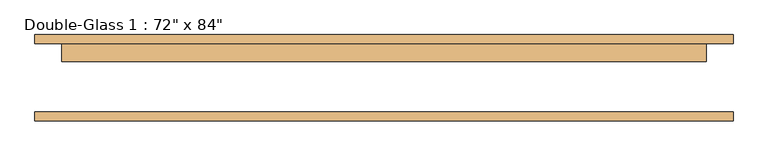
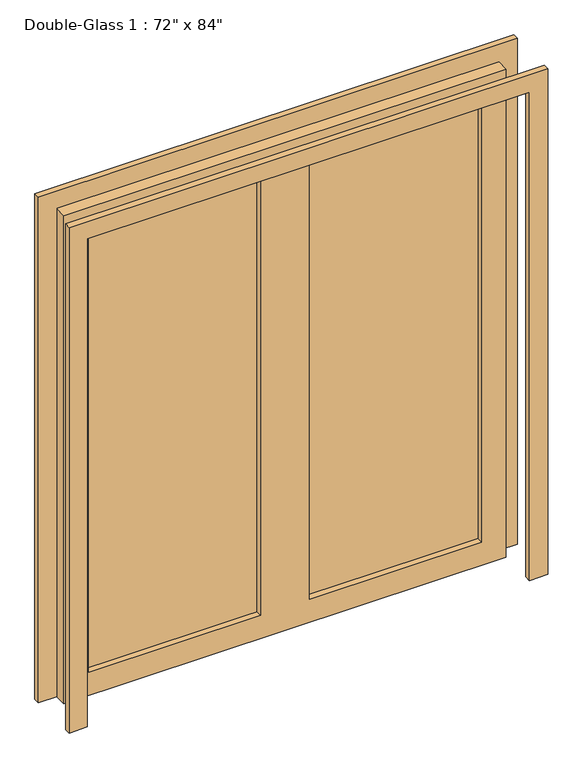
"""IFC4 building model written with IfcOpenShell, lengths in millimetres: door geometry."""

from ifc_helpers import new_model, si_unit, frame, origin, place, context, project, spatial, polyline, outline, extrude, source, transform, mapped, element, save


def door_ae1b4af6(model_context):
    return source(origin(), model_context, "Body", "SweptSolid", [
        extrude(outline(polyline([(0.0, 990.6), (2209.8, 990.6), (2209.8, -990.6), (0.0, -990.6), (0.0, -914.4), (2133.6, -914.4), (2133.6, 914.4), (0.0, 914.4), (0.0, 990.6)])), frame((0.0, -119.85625, 0.0), z_axis=(0.0, 1.0, 0.0), x_axis=(0.0, 0.0, 1.0)), (0.0, 0.0, 1.0), 25.4),
        extrude(outline(polyline([(2133.6, 914.4), (0.0, 914.4), (0.0, 990.6), (2209.8, 990.6), (2209.8, -990.6), (0.0, -990.6), (0.0, -914.4), (2133.6, -914.4), (2133.6, 914.4)])), frame((0.0, 99.21875, 0.0), z_axis=(0.0, 1.0, 0.0), x_axis=(0.0, 0.0, 1.0)), (0.0, 0.0, 1.0), 25.4),
        extrude(outline(polyline([(812.8, 73.81875), (101.6, 73.81875), (101.6, 80.9625), (812.8, 80.9625), (812.8, 73.81875)])), frame((0.0, 0.0, 101.6), z_axis=(0.0, 0.0, 1.0), x_axis=(1.0, 0.0, 0.0)), (0.0, 0.0, 1.0), 1930.4),
        extrude(outline(polyline([(-101.6, 73.81875), (-812.8, 73.81875), (-812.8, 80.9625), (-101.6, 80.9625), (-101.6, 73.81875)])), frame((0.0, 0.0, 101.6), z_axis=(0.0, 0.0, 1.0), x_axis=(1.0, 0.0, 0.0)), (0.0, 0.0, 1.0), 1930.4),
        extrude(outline(polyline([(2133.6, 914.4), (2133.6, -914.4), (0.0, -914.4), (0.0, 914.4), (2133.6, 914.4)]), holes=[polyline([(2032.0, -101.6), (101.6, -101.6), (101.6, -812.8), (2032.0, -812.8), (2032.0, -101.6)]), polyline([(2032.0, 812.8), (101.6, 812.8), (101.6, 101.6), (2032.0, 101.6), (2032.0, 812.8)])]), frame((0.0, 48.41875, 0.0), z_axis=(0.0, 1.0, 0.0), x_axis=(0.0, 0.0, 1.0)), (0.0, 0.0, 1.0), 50.8),
    ])


if __name__ == "__main__":
    model = new_model("IFC4")
    model_context = context("Model", 3, world=origin())
    ifc_project = project(units=[si_unit("LENGTHUNIT", "METRE", prefix="MILLI")], contexts=[model_context])
    site = spatial("IfcSite", under=ifc_project)
    building = spatial("IfcBuilding", under=site)
    placement = place(None, origin())
    door_shape = door_ae1b4af6(model_context)
    element("IfcDoor", 1, ObjectType="Double-Glass 1 : 72\" x 84\"", at=placement, inside=building, context=model_context, shape_type="MappedRepresentation", body=[
        mapped(door_shape, transform((0.0, 0.0, 0.0), x_axis=(1.0, 0.0, 0.0), y_axis=(0.0, 1.0, 0.0), z_axis=(0.0, 0.0, 1.0))),
    ])
    save(model, "model.ifc")
